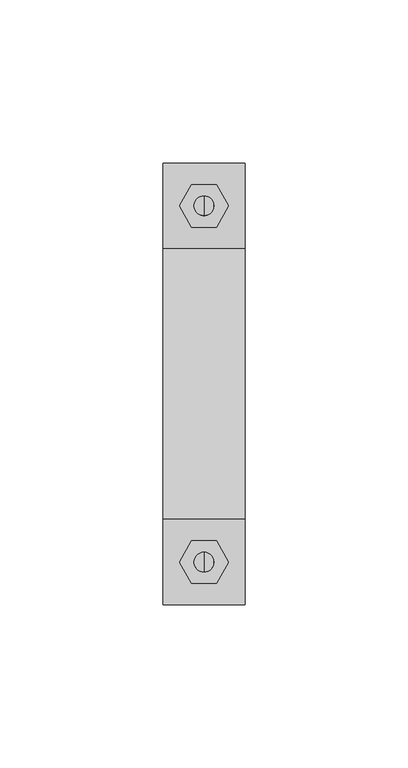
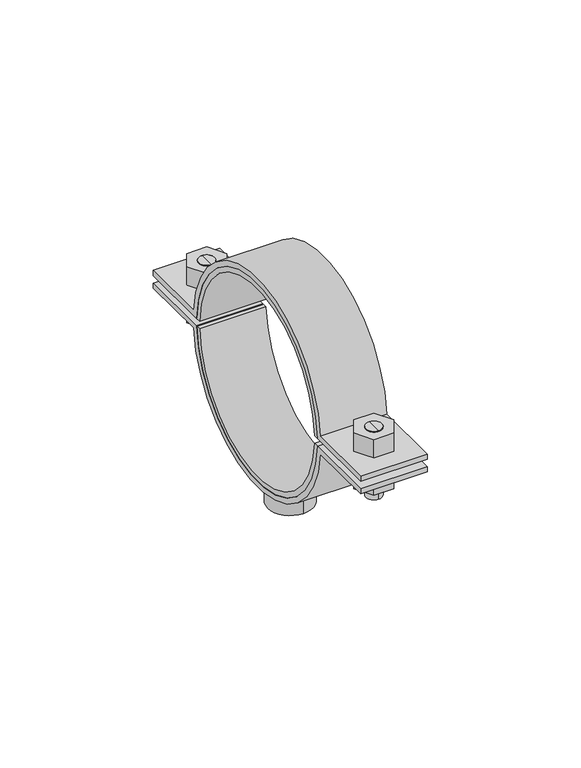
"""IFC4 building model written with IfcOpenShell, lengths in millimetres: valve geometry, Superfix DG2 Clamp (based on pipe) : Superfix DG2 Clamp (based on pipe)."""

import ifcopenshell
import ifcopenshell.guid

model = None  # the IFC model being written
_history = None  # IfcOwnerHistory: only IFC2X3 demands one
_inside = {}  # id of a spatial element -> (the spatial element, [elements in it])
_under = {}  # id of a project, library or spatial element -> (it, [spatial elements below it])
_declared = {}  # id of a project -> (the project, [libraries it declares])
_typed = {}  # id of a type object -> (the type object, [elements of that type])
_made_of = {}  # id of a material, layer set ... -> (it, [elements and type objects made of it])


def new_model(schema):
    """Start an empty IFC model of exactly this schema.

    Asked for "IFC4X3", IfcOpenShell would pick the latest addendum, in which some entities
    have other attributes; the version numbers below select the first issue.
    IFC2X3 requires an IfcOwnerHistory on every rooted entity: one is made here for all.
    """
    global model, _history
    if schema == "IFC4X3":
        model = ifcopenshell.file(schema_version=(4, 3, 0, 0))
    else:
        model = ifcopenshell.file(schema=schema)
    _inside.clear()
    _under.clear()
    _declared.clear()
    _typed.clear()
    _made_of.clear()
    _history = None
    if model.schema == "IFC2X3":
        org = make("IfcOrganization", Name="unknown")
        user = make(
            "IfcPersonAndOrganization",
            ThePerson=make("IfcPerson", FamilyName="unknown"),
            TheOrganization=org,
        )
        app = make(
            "IfcApplication",
            ApplicationDeveloper=org,
            Version="unknown",
            ApplicationFullName="unknown",
            ApplicationIdentifier="unknown",
        )
        _history = make(
            "IfcOwnerHistory",
            OwningUser=user,
            OwningApplication=app,
            ChangeAction="ADDED",
            CreationDate=0,
        )
    return model


def make(cls, **values):
    """One entity of the class cls with the attributes given. An attribute that is None is left unset."""
    return model.create_entity(
        cls, **{name: value for name, value in values.items() if value is not None}
    )


def rooted(cls, **values):
    """An entity with a GlobalId (a new one), such as an element, a storey or a relation."""
    return make(cls, GlobalId=ifcopenshell.guid.new(), OwnerHistory=_history, **values)


def si_unit(unit_type, name, prefix=None):
    """IfcSIUnit, for example si_unit("LENGTHUNIT", "METRE", prefix="MILLI")."""
    return make("IfcSIUnit", UnitType=unit_type, Prefix=prefix, Name=name)


def assignment(units):
    """IfcUnitAssignment: the units of a project."""
    return None if units is None else make("IfcUnitAssignment", Units=units)


def point(xyz):
    """IfcCartesianPoint."""
    return None if xyz is None else make("IfcCartesianPoint", Coordinates=xyz)


def direction(xyz):
    """IfcDirection."""
    return None if xyz is None else make("IfcDirection", DirectionRatios=xyz)


def frame(location, z_axis=None, x_axis=None):
    """IfcAxis2Placement3D, a coordinate frame: its origin and axes. An axis left out is left unset."""
    return make(
        "IfcAxis2Placement3D",
        Location=point(location),
        Axis=direction(z_axis),
        RefDirection=direction(x_axis),
    )


def frame_2d(location, x_axis=None):
    """IfcAxis2Placement2D, a coordinate frame in the plane: its origin and x axis."""
    return make(
        "IfcAxis2Placement2D", Location=point(location), RefDirection=direction(x_axis)
    )


def origin():
    """The frame at (0, 0, 0) with its axes left unset."""
    return frame((0.0, 0.0, 0.0))


def origin_2d():
    """The frame at (0, 0) in the plane with its x axis left unset."""
    return frame_2d((0.0, 0.0))


def place(relative_to, where):
    """IfcLocalPlacement: puts the frame where relative to a parent placement (None: the world)."""
    return make(
        "IfcLocalPlacement", PlacementRelTo=relative_to, RelativePlacement=where
    )


def context(
    kind, dimensions, precision=None, world=None, true_north=None, identifier=None
):
    """IfcGeometricRepresentationContext, for example the 3D "Model" context."""
    return make(
        "IfcGeometricRepresentationContext",
        ContextIdentifier=identifier,
        ContextType=kind,
        CoordinateSpaceDimension=dimensions,
        Precision=precision,
        WorldCoordinateSystem=world,
        TrueNorth=true_north,
    )


def project(units=None, contexts=None):
    """IfcProject with its units and contexts."""
    return rooted(
        "IfcProject",
        Name="project",
        RepresentationContexts=contexts,
        UnitsInContext=assignment(units),
    )


def spatial(cls, under=None, at=None, **own):
    """A site, building, storey or space (cls), placed at a placement, below another one or the project."""
    s = rooted(cls, ObjectPlacement=at, **own)
    if under is not None:
        _under.setdefault(under.id(), (under, []))[1].append(s)
    return s


def polyline(points):
    """IfcPolyline through the points."""
    return make("IfcPolyline", Points=[point(p) for p in points])


def circle_curve(where, radius):
    """IfcCircle in the frame where."""
    return make("IfcCircle", Position=where, Radius=radius)


def trimmed(basis, trim1, trim2, sense, master):
    """IfcTrimmedCurve: the piece of a basis curve between two trims."""
    return make(
        "IfcTrimmedCurve",
        BasisCurve=basis,
        Trim1=trim1,
        Trim2=trim2,
        SenseAgreement=sense,
        MasterRepresentation=master,
    )


def segment(curve, same_sense, transition):
    """IfcCompositeCurveSegment."""
    return make(
        "IfcCompositeCurveSegment",
        Transition=transition,
        SameSense=same_sense,
        ParentCurve=curve,
    )


def composite_curve(segments, self_intersect=None):
    """IfcCompositeCurve: segments joined end to end."""
    return make("IfcCompositeCurve", Segments=segments, SelfIntersect=self_intersect)


def outline(outer, holes=None, kind="AREA"):
    """IfcArbitraryClosedProfileDef: a profile drawn as a closed curve; with holes, ...WithVoids."""
    if holes is None:
        return make("IfcArbitraryClosedProfileDef", ProfileType=kind, OuterCurve=outer)
    return make(
        "IfcArbitraryProfileDefWithVoids",
        ProfileType=kind,
        OuterCurve=outer,
        InnerCurves=holes,
    )


def extrude(swept, where, along, depth):
    """IfcExtrudedAreaSolid: the profile swept, set in the frame where, extruded along a direction by depth."""
    return make(
        "IfcExtrudedAreaSolid",
        SweptArea=swept,
        Position=where,
        ExtrudedDirection=direction(along),
        Depth=depth,
    )


def shape(context_of_items, identifier, shape_type, items):
    """IfcShapeRepresentation: the items that make up one representation, for example the "Body"."""
    return make(
        "IfcShapeRepresentation",
        ContextOfItems=context_of_items,
        RepresentationIdentifier=identifier,
        RepresentationType=shape_type,
        Items=items,
    )


def source(mapping_origin, context_of_items, identifier, shape_type, items):
    """IfcRepresentationMap: a shape defined once, which mapped items show again and again."""
    return make(
        "IfcRepresentationMap",
        MappingOrigin=mapping_origin,
        MappedRepresentation=shape(context_of_items, identifier, shape_type, items),
    )


def transform(
    local_origin,
    x_axis=None,
    y_axis=None,
    z_axis=None,
    scale=None,
    scale2=None,
    scale3=None,
    uniform=True,
):
    """IfcCartesianTransformationOperator3D, or its non-uniform kind. x_axis, y_axis, z_axis: its Axis1, 2, 3."""
    if uniform:
        return make(
            "IfcCartesianTransformationOperator3D",
            Axis1=direction(x_axis),
            Axis2=direction(y_axis),
            LocalOrigin=point(local_origin),
            Scale=scale,
            Axis3=direction(z_axis),
        )
    return make(
        "IfcCartesianTransformationOperator3DnonUniform",
        Axis1=direction(x_axis),
        Axis2=direction(y_axis),
        LocalOrigin=point(local_origin),
        Scale=scale,
        Axis3=direction(z_axis),
        Scale2=scale2,
        Scale3=scale3,
    )


def mapped(mapping_source, mapping_target):
    """IfcMappedItem: shows the shape of a source again, moved by a transform."""
    return make(
        "IfcMappedItem", MappingSource=mapping_source, MappingTarget=mapping_target
    )


def made_of(thing, what):
    """Note that an element or type object is made of a material, layer set ...; save() writes the relation."""
    if what is not None:
        _made_of.setdefault(what.id(), (what, []))[1].append(thing)
    return thing


def element(
    cls,
    number,
    at=None,
    inside=None,
    cuts=None,
    type_object=None,
    material=None,
    context=None,
    identifier="Body",
    shape_type=None,
    held_by="IfcProductDefinitionShape",
    body=None,
    shapes=None,
    **own,
):
    """One element of the class cls, such as IfcWall. Its Tag is "e" and its number.

    at: its placement. inside: the storey or other place that contains it. cuts: it is an
    opening in that element (IfcRelVoidsElement). A single representation is given by context,
    identifier, shape_type and body (its items); several are given by shapes. held_by: the class
    of the entity that holds the representations. save() writes the other relations.
    """
    e = rooted(cls, Tag="e%d" % number, ObjectPlacement=at, **own)
    if body is not None:
        shapes = [shape(context, identifier, shape_type, body)]
    if shapes is not None:
        e.Representation = make(held_by, Representations=shapes)
    if inside is not None:
        _inside.setdefault(inside.id(), (inside, []))[1].append(e)
    if cuts is not None:
        rooted(
            "IfcRelVoidsElement", RelatingBuildingElement=cuts, RelatedOpeningElement=e
        )
    if type_object is not None:
        _typed.setdefault(type_object.id(), (type_object, []))[1].append(e)
    return made_of(e, material)


def aggregate(whole, parts):
    """IfcRelAggregates: a whole, such as a stair, and the parts it consists of."""
    return rooted("IfcRelAggregates", RelatingObject=whole, RelatedObjects=parts)


def save(model, path):
    """Write the relations noted so far, then the file.

    IfcRelAggregates (storeys below a building ...), IfcRelContainedInSpatialStructure (elements
    in a storey), IfcRelDefinesByType, IfcRelAssociatesMaterial and IfcRelDeclares: one each for
    every whole, place, type object, material and project.
    """
    for whole, parts in _under.values():
        aggregate(whole, parts)
    for where, things in _inside.values():
        rooted(
            "IfcRelContainedInSpatialStructure",
            RelatedElements=things,
            RelatingStructure=where,
        )
    for kind, things in _typed.values():
        rooted("IfcRelDefinesByType", RelatedObjects=things, RelatingType=kind)
    for what, things in _made_of.values():
        rooted("IfcRelAssociatesMaterial", RelatedObjects=things, RelatingMaterial=what)
    for by, libraries in _declared.values():
        rooted("IfcRelDeclares", RelatingContext=by, RelatedDefinitions=libraries)
    model.write(path)


def plane_surface(at):
    """IfcPlane: the flat surface through the origin of the frame at, square to its z axis."""
    return make("IfcPlane", Position=at)


def cylinder_surface(at, radius):
    """IfcCylindricalSurface: all points at the distance radius from the z axis of the frame at."""
    return make("IfcCylindricalSurface", Position=at, Radius=radius)


def advanced_brep(points, edges, surfaces, faces):
    """IfcAdvancedBrep: a solid bounded by faces that lie on surfaces and meet in shared edges.

    An edge is (start, end): straight between two places in points (the first is 0);
    or (start, end, curve); or (start, end, curve, False) where it runs against its curve.
    A face is (place in surfaces, loops), or (place, loops, False) where it looks against
    its surface's normal. A loop lists edges by number (the first is 1), with a minus sign
    where the edge is run from its end to its start. The first loop is the outer one.
    """
    corners = [point(p) for p in points]
    vertices = [make("IfcVertexPoint", VertexGeometry=c) for c in corners]
    made = []
    for start, end, *more in edges:
        made.append(
            make(
                "IfcEdgeCurve",
                EdgeStart=vertices[start],
                EdgeEnd=vertices[end],
                EdgeGeometry=more[0] if more else make("IfcPolyline", Points=[corners[start], corners[end]]),
                SameSense=more[1] if len(more) > 1 else True,
            )
        )
    hull = []
    for where, loops, *sense in faces:
        bounds = []
        for j, loop in enumerate(loops):
            ring = [make("IfcOrientedEdge", EdgeElement=made[abs(k) - 1], Orientation=k > 0) for k in loop]
            bounds.append(
                make(
                    "IfcFaceOuterBound" if j == 0 else "IfcFaceBound",
                    Bound=make("IfcEdgeLoop", EdgeList=ring),
                    Orientation=True,
                )
            )
        hull.append(make("IfcAdvancedFace", Bounds=bounds, FaceSurface=surfaces[where], SameSense=sense[0] if sense else True))
    return make("IfcAdvancedBrep", Outer=make("IfcClosedShell", CfsFaces=hull))


def valve_48b51991(model_context):
    return source(origin(), model_context, "Body", "SolidModel", [
        advanced_brep(
        [(0.0, 57.5, 342.4002332), (0.0, 51.5, 342.4002332), (0.0, 51.5, 357.0002332), (0.0, 57.5, 357.0002332), (0.0, 54.5, 342.4002332)],
        [
            (0, 1, circle_curve(frame((0.0, 54.5, 342.4002332), z_axis=(0.0, 0.0, 1.0), x_axis=(0.0, 1.0, 0.0)), 3.0)),
            (1, 2),
            (2, 3, circle_curve(frame((0.0, 54.5, 357.0002332), z_axis=(0.0, 0.0, -1.0), x_axis=(0.0, 1.0, 0.0)), 3.0)),
            (3, 0),
            (1, 0, circle_curve(frame((0.0, 54.5, 342.4002332), z_axis=(0.0, 0.0, 1.0), x_axis=(0.0, 1.0, 0.0)), 3.0)),
            (3, 2, circle_curve(frame((0.0, 54.5, 357.0002332), z_axis=(0.0, 0.0, -1.0), x_axis=(0.0, 1.0, 0.0)), 3.0)),
            (0, 4),
            (4, 1),
        ],
        [
            cylinder_surface(frame((0.0, 54.5, 356.7808426), z_axis=(0.0, 0.0, 1.0), x_axis=(0.0, 1.0, 0.0)), 3.0),
            plane_surface(frame((0.0, 54.5, 342.4002332), z_axis=(0.0, 0.0, -1.0), x_axis=(0.0, 1.0, 0.0))),
            plane_surface(frame((13.75, -67.5, 357.0002332), z_axis=(0.0, 0.0, 1.0), x_axis=(-1.0, 0.0, 0.0))),
        ],
        [
            (0, [[1, 2, 3, 4]]),
            (0, [[5, -4, 6, -2]]),
            (1, [[-1, 7, 8]]),
            (1, [[-5, -8, -7]]),
            (2, [[-3, -6]]),
        ],
    ),
        advanced_brep(
        [(0.0, 51.5, 369.6002332), (0.0, 57.5, 369.6002332), (0.0, 57.5, 360.0002332), (0.0, 51.5, 360.0002332), (0.0, 54.5, 369.6002332)],
        [
            (0, 1, circle_curve(frame((0.0, 54.5, 369.6002332), z_axis=(0.0, 0.0, -1.0), x_axis=(0.0, 1.0, 0.0)), 3.0)),
            (1, 2),
            (2, 3, circle_curve(frame((0.0, 54.5, 360.0002332), z_axis=(0.0, 0.0, 1.0), x_axis=(0.0, 1.0, 0.0)), 3.0)),
            (3, 0),
            (1, 0, circle_curve(frame((0.0, 54.5, 369.6002332), z_axis=(0.0, 0.0, -1.0), x_axis=(0.0, 1.0, 0.0)), 3.0)),
            (3, 2, circle_curve(frame((0.0, 54.5, 360.0002332), z_axis=(0.0, 0.0, 1.0), x_axis=(0.0, 1.0, 0.0)), 3.0)),
            (0, 4),
            (4, 1),
        ],
        [
            cylinder_surface(frame((0.0, 54.5, 356.7808426), z_axis=(0.0, 0.0, 1.0), x_axis=(0.0, 1.0, 0.0)), 3.0),
            plane_surface(frame((0.0, 54.5, 369.6002332), z_axis=(0.0, 0.0, 1.0), x_axis=(0.0, 1.0, 0.0))),
            plane_surface(frame((13.75, 67.5, 360.0002332), z_axis=(0.0, 0.0, -1.0), x_axis=(-1.0, 0.0, 0.0))),
        ],
        [
            (0, [[1, 2, 3, 4]]),
            (0, [[5, -4, 6, -2]]),
            (1, [[-1, 7, 8]]),
            (1, [[-5, -8, -7]]),
            (2, [[-3, -6]]),
        ],
    ),
        advanced_brep(
        [(0.0, -57.5, 369.6002332), (0.0, -51.5, 369.6002332), (0.0, -51.5, 360.0002332), (0.0, -57.5, 360.0002332), (0.0, -54.5, 369.6002332)],
        [
            (0, 1, circle_curve(frame((0.0, -54.5, 369.6002332), z_axis=(0.0, 0.0, -1.0), x_axis=(0.0, -1.0, 0.0)), 3.0)),
            (1, 2),
            (2, 3, circle_curve(frame((0.0, -54.5, 360.0002332), z_axis=(0.0, 0.0, 1.0), x_axis=(0.0, -1.0, 0.0)), 3.0)),
            (3, 0),
            (1, 0, circle_curve(frame((0.0, -54.5, 369.6002332), z_axis=(0.0, 0.0, -1.0), x_axis=(0.0, -1.0, 0.0)), 3.0)),
            (3, 2, circle_curve(frame((0.0, -54.5, 360.0002332), z_axis=(0.0, 0.0, 1.0), x_axis=(0.0, -1.0, 0.0)), 3.0)),
            (0, 4),
            (4, 1),
        ],
        [
            cylinder_surface(frame((0.0, -54.5, 356.7808426), z_axis=(0.0, 0.0, -1.0), x_axis=(0.0, -1.0, 0.0)), 3.0),
            plane_surface(frame((0.0, -54.5, 369.6002332), z_axis=(0.0, 0.0, 1.0), x_axis=(0.0, -1.0, 0.0))),
            plane_surface(frame((13.75, 67.5, 360.0002332), z_axis=(0.0, 0.0, -1.0), x_axis=(-1.0, 0.0, 0.0))),
        ],
        [
            (0, [[1, 2, 3, 4]]),
            (0, [[5, -4, 6, -2]]),
            (1, [[-1, 7, 8]]),
            (1, [[-5, -8, -7]]),
            (2, [[-3, -6]]),
        ],
    ),
        advanced_brep(
        [(0.0, -51.5, 342.4002332), (0.0, -57.5, 342.4002332), (0.0, -57.5, 357.0002332), (0.0, -51.5, 357.0002332), (0.0, -54.5, 342.4002332)],
        [
            (0, 1, circle_curve(frame((0.0, -54.5, 342.4002332), z_axis=(0.0, 0.0, 1.0), x_axis=(0.0, -1.0, 0.0)), 3.0)),
            (1, 2),
            (2, 3, circle_curve(frame((0.0, -54.5, 357.0002332), z_axis=(0.0, 0.0, -1.0), x_axis=(0.0, -1.0, 0.0)), 3.0)),
            (3, 0),
            (1, 0, circle_curve(frame((0.0, -54.5, 342.4002332), z_axis=(0.0, 0.0, 1.0), x_axis=(0.0, -1.0, 0.0)), 3.0)),
            (3, 2, circle_curve(frame((0.0, -54.5, 357.0002332), z_axis=(0.0, 0.0, -1.0), x_axis=(0.0, -1.0, 0.0)), 3.0)),
            (0, 4),
            (4, 1),
        ],
        [
            cylinder_surface(frame((0.0, -54.5, 356.7808426), z_axis=(0.0, 0.0, -1.0), x_axis=(0.0, -1.0, 0.0)), 3.0),
            plane_surface(frame((0.0, -54.5, 342.4002332), z_axis=(0.0, 0.0, -1.0), x_axis=(0.0, -1.0, 0.0))),
            plane_surface(frame((13.75, -67.5, 357.0002332), z_axis=(0.0, 0.0, 1.0), x_axis=(-1.0, 0.0, 0.0))),
        ],
        [
            (0, [[1, 2, 3, 4]]),
            (0, [[5, -4, 6, -2]]),
            (1, [[-1, 7, 8]]),
            (1, [[-5, -8, -7]]),
            (2, [[-3, -6]]),
        ],
    ),
        extrude(outline(composite_curve([segment(trimmed(circle_curve(frame_2d((0.0, 358.5002332)), 39.5), [point((-39.4715087, 357.0002332))], [point((39.4715087, 357.0002332))], True, "CARTESIAN"), True, "CONTINUOUS"), segment(polyline([(39.4715087, 357.0002332), (67.5, 357.0002332), (67.5, 355.0002332), (41.3521463, 355.0002332)]), True, "CONTINUOUS"), segment(trimmed(circle_curve(frame_2d((0.0, 358.5002332)), 41.5), [point((41.3521463, 355.0002332))], [point((-41.3521463, 355.0002332))], False, "CARTESIAN"), True, "CONTINUOUS"), segment(polyline([(-41.3521463, 355.0002332), (-67.5, 355.0002332), (-67.5, 357.0002332), (-39.4715087, 357.0002332)]), True, "CONTINUOUS")], self_intersect=False)), frame((-12.5, 0.0, 0.0), z_axis=(1.0, 0.0, 0.0), x_axis=(0.0, 1.0, 0.0)), (0.0, 0.0, 1.0), 25.0),
        extrude(outline(composite_curve([segment(trimmed(circle_curve(frame_2d((0.0, 358.5002332)), 39.5), [point((39.4715087, 360.0002332))], [point((-39.4715087, 360.0002332))], True, "CARTESIAN"), True, "CONTINUOUS"), segment(polyline([(-39.4715087, 360.0002332), (-67.5, 360.0002332), (-67.5, 362.0002332), (-41.3521463, 362.0002332)]), True, "CONTINUOUS"), segment(trimmed(circle_curve(frame_2d((0.0, 358.5002332)), 41.5), [point((-41.3521463, 362.0002332))], [point((41.3521463, 362.0002332))], False, "CARTESIAN"), True, "CONTINUOUS"), segment(polyline([(41.3521463, 362.0002332), (67.5, 362.0002332), (67.5, 360.0002332), (39.4715087, 360.0002332)]), True, "CONTINUOUS")], self_intersect=False)), frame((-12.5, 0.0, 0.0), z_axis=(1.0, 0.0, 0.0), x_axis=(0.0, 1.0, 0.0)), (0.0, 0.0, 1.0), 25.0),
        extrude(outline(polyline([(7.5055535, -54.5), (3.7527767, -61.0), (-3.7527767, -61.0), (-7.5055535, -54.5), (-3.7527767, -48.0), (3.7527767, -48.0), (7.5055535, -54.5)]), holes=[composite_curve([segment(trimmed(circle_curve(frame_2d((0.0, -54.5)), 3.0), [point((3.0, -54.5))], [point((-3.0, -54.5))], True, "CARTESIAN"), True, "CONTINUOUS"), segment(trimmed(circle_curve(frame_2d((0.0, -54.5)), 3.0), [point((-3.0, -54.5))], [point((3.0, -54.5))], True, "CARTESIAN"), True, "CONTINUOUS")], self_intersect=False)]), frame((0.0, 0.0, 362.0002332), z_axis=(0.0, 0.0, 1.0), x_axis=(1.0, 0.0, 0.0)), (0.0, 0.0, 1.0), 7.6),
        extrude(outline(polyline([(7.5055535, 54.5), (3.7527767, 48.0), (-3.7527767, 48.0), (-7.5055535, 54.5), (-3.7527767, 61.0), (3.7527767, 61.0), (7.5055535, 54.5)]), holes=[composite_curve([segment(trimmed(circle_curve(frame_2d((0.0, 54.5)), 3.0), [point((3.0, 54.5))], [point((-3.0, 54.5))], True, "CARTESIAN"), True, "CONTINUOUS"), segment(trimmed(circle_curve(frame_2d((0.0, 54.5)), 3.0), [point((-3.0, 54.5))], [point((3.0, 54.5))], True, "CARTESIAN"), True, "CONTINUOUS")], self_intersect=False)]), frame((0.0, 0.0, 362.0002332), z_axis=(0.0, 0.0, 1.0), x_axis=(1.0, 0.0, 0.0)), (0.0, 0.0, 1.0), 7.6),
        extrude(outline(polyline([(7.5055535, -54.5), (3.7527767, -61.0), (-3.7527767, -61.0), (-7.5055535, -54.5), (-3.7527767, -48.0), (3.7527767, -48.0), (7.5055535, -54.5)]), holes=[composite_curve([segment(trimmed(circle_curve(frame_2d((0.0, -54.5)), 3.0), [point((3.0, -54.5))], [point((-3.0, -54.5))], True, "CARTESIAN"), True, "CONTINUOUS"), segment(trimmed(circle_curve(frame_2d((0.0, -54.5)), 3.0), [point((-3.0, -54.5))], [point((3.0, -54.5))], True, "CARTESIAN"), True, "CONTINUOUS")], self_intersect=False)]), frame((0.0, 0.0, 347.4002332), z_axis=(0.0, 0.0, 1.0), x_axis=(1.0, 0.0, 0.0)), (0.0, 0.0, 1.0), 7.6),
        extrude(outline(polyline([(7.5055535, 54.5), (3.7527767, 48.0), (-3.7527767, 48.0), (-7.5055535, 54.5), (-3.7527767, 61.0), (3.7527767, 61.0), (7.5055535, 54.5)]), holes=[composite_curve([segment(trimmed(circle_curve(frame_2d((0.0, 54.5)), 3.0), [point((3.0, 54.5))], [point((-3.0, 54.5))], True, "CARTESIAN"), True, "CONTINUOUS"), segment(trimmed(circle_curve(frame_2d((0.0, 54.5)), 3.0), [point((-3.0, 54.5))], [point((3.0, 54.5))], True, "CARTESIAN"), True, "CONTINUOUS")], self_intersect=False)]), frame((0.0, 0.0, 347.4002332), z_axis=(0.0, 0.0, 1.0), x_axis=(1.0, 0.0, 0.0)), (0.0, 0.0, 1.0), 7.6),
        extrude(outline(composite_curve([segment(trimmed(circle_curve(origin_2d(), 8.5), [point((0.0, 8.5))], [point((0.0, -8.5))], False, "CARTESIAN"), True, "CONTINUOUS"), segment(trimmed(circle_curve(origin_2d(), 8.5), [point((0.0, -8.5))], [point((0.0, 8.5))], False, "CARTESIAN"), True, "CONTINUOUS")], self_intersect=False), holes=[composite_curve([segment(trimmed(circle_curve(origin_2d(), 5.0), [point((0.0, 5.0))], [point((0.0, -5.0))], True, "CARTESIAN"), True, "CONTINUOUS"), segment(trimmed(circle_curve(origin_2d(), 5.0), [point((0.0, -5.0))], [point((0.0, 5.0))], True, "CARTESIAN"), True, "CONTINUOUS")], self_intersect=False)]), frame((0.0, 0.0, 307.0002332), z_axis=(0.0, 0.0, 1.0), x_axis=(1.0, 0.0, 0.0)), (0.0, 0.0, 1.0), 12.0),
        extrude(outline(composite_curve([segment(trimmed(circle_curve(frame_2d((0.0, 358.5002332)), 37.5), [point((37.469988, 360.0002332))], [point((-37.469988, 360.0002332))], True, "CARTESIAN"), True, "CONTINUOUS"), segment(polyline([(-37.469988, 360.0002332), (-39.4715087, 360.0002332)]), True, "CONTINUOUS"), segment(trimmed(circle_curve(frame_2d((0.0, 358.5002332)), 39.5), [point((-39.4715087, 360.0002332))], [point((39.4715087, 360.0002332))], False, "CARTESIAN"), True, "CONTINUOUS"), segment(polyline([(39.4715087, 360.0002332), (37.469988, 360.0002332)]), True, "CONTINUOUS")], self_intersect=False)), frame((-12.5, 0.0, 0.0), z_axis=(1.0, 0.0, 0.0), x_axis=(0.0, 1.0, 0.0)), (0.0, 0.0, 1.0), 25.0),
        extrude(outline(composite_curve([segment(polyline([(37.469988, 357.0002332), (39.4715087, 357.0002332)]), True, "CONTINUOUS"), segment(trimmed(circle_curve(frame_2d((0.0, 358.5002332)), 39.5), [point((39.4715087, 357.0002332))], [point((-39.4715087, 357.0002332))], False, "CARTESIAN"), True, "CONTINUOUS"), segment(polyline([(-39.4715087, 357.0002332), (-37.469988, 357.0002332)]), True, "CONTINUOUS"), segment(trimmed(circle_curve(frame_2d((0.0, 358.5002332)), 37.5), [point((-37.469988, 357.0002332))], [point((37.469988, 357.0002332))], True, "CARTESIAN"), True, "CONTINUOUS")], self_intersect=False)), frame((-12.5, 0.0, 0.0), z_axis=(1.0, 0.0, 0.0), x_axis=(0.0, 1.0, 0.0)), (0.0, 0.0, 1.0), 25.0),
    ])


if __name__ == "__main__":
    model = new_model("IFC4")
    model_context = context("Model", 3, world=origin())
    ifc_project = project(units=[si_unit("LENGTHUNIT", "METRE", prefix="MILLI")], contexts=[model_context])
    site = spatial("IfcSite", under=ifc_project)
    building = spatial("IfcBuilding", under=site)
    placement = place(None, origin())
    valve_shape = valve_48b51991(model_context)
    element("IfcValve", 1, ObjectType="Superfix DG2 Clamp (based on pipe) : Superfix DG2 Clamp (based on pipe)", at=placement, inside=building, context=model_context, shape_type="MappedRepresentation", body=[
        mapped(valve_shape, transform((0.0, 0.0, 0.0), x_axis=(1.0, 0.0, 0.0), y_axis=(0.0, 1.0, 0.0), z_axis=(0.0, 0.0, 1.0))),
    ])
    save(model, "model.ifc")
